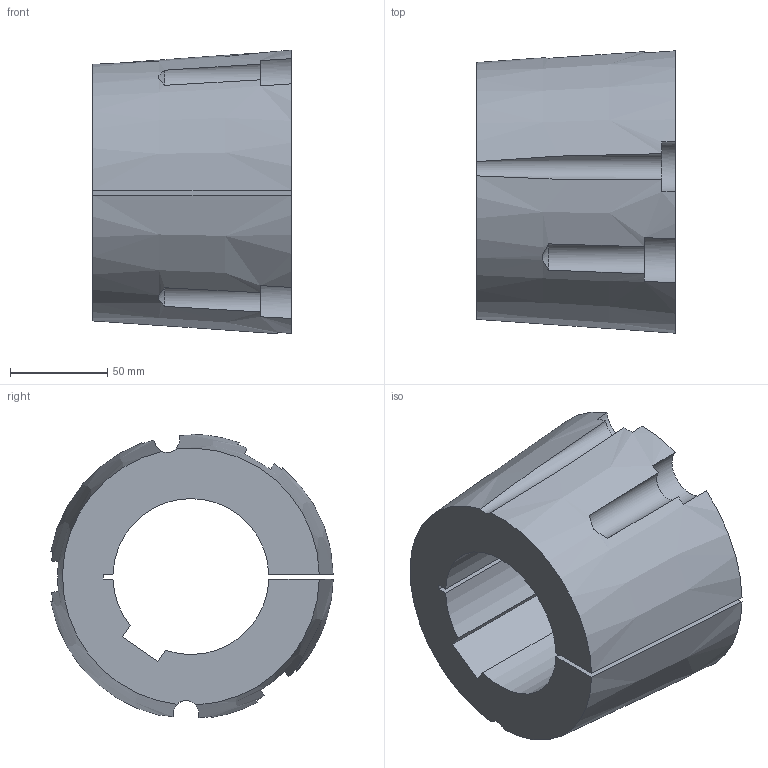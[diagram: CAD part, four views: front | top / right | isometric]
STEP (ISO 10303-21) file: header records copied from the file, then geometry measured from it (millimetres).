
FILE_DESCRIPTION( ( 'STEP AP203' ), '1' );
FILE_NAME( 'D:/export/antriebselemente/spannbuchsen_und_spannsaetze/taper-spannbuchsen_1008_bis_5050/taper-spannbuchsen_62251480Isometric_244.stp', '2018-12-11T11:11:33', ( '' ), ( '' ), ' ', 'PARTsolutions', ' ' );
FILE_SCHEMA( ( 'CONFIG_CONTROL_DESIGN' ) );
Length unit declared in the file: millimetre
Products named in the file (1): _taper-spannbuchsen_62251480
Bounding box: 102 x 144.84 x 145.4 mm (x, y, z)
Volume: 968552.8 mm3; surface area: 100573.4 mm2
Topology: 1 solids, 1 shells, 34 faces, 96 edges, 64 vertices
Faces by surface type: plane 15, cylinder 13, cone 6
Entity records: 1310 total; most frequent: CARTESIAN_POINT 386, ORIENTED_EDGE 192, DIRECTION 186, EDGE_CURVE 96, AXIS2_PLACEMENT_3D 80, VERTEX_POINT 64, CIRCLE 45, ADVANCED_FACE 34
